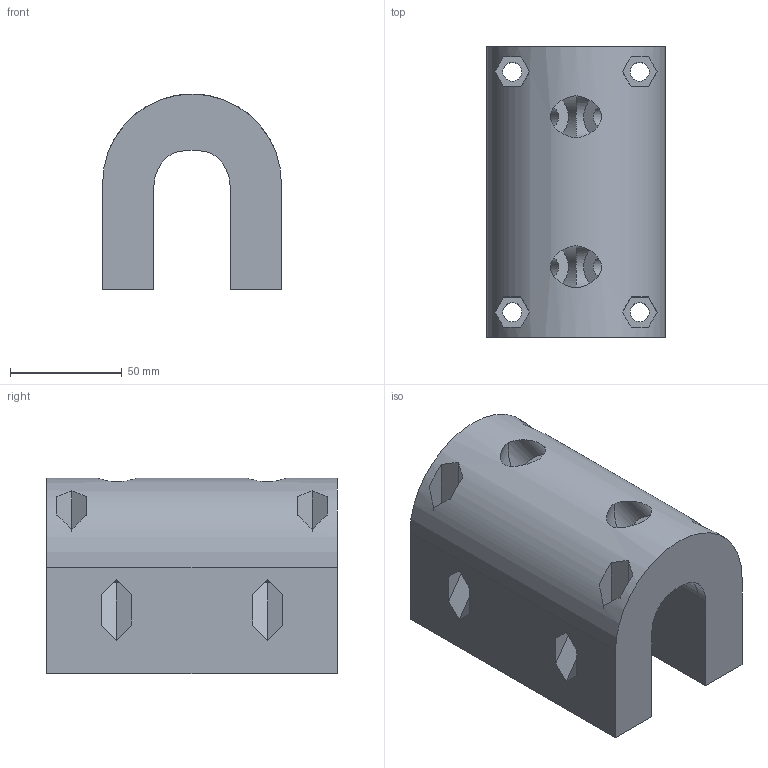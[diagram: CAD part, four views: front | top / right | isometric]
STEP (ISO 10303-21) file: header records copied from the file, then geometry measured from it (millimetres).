
FILE_DESCRIPTION(('FreeCAD Model'),'2;1');
FILE_NAME('Open CASCADE Shape Model','2026-10-06T17:51:36',(''),(''), 'Open CASCADE STEP processor 7.8','FreeCAD','Unknown');
FILE_SCHEMA(('AUTOMOTIVE_DESIGN { 1 0 10303 214 1 1 1 1 }'));
Length unit declared in the file: millimetre
Products named in the file (1): Pocket034
Bounding box: 80 x 130 x 87.62 mm (x, y, z)
Volume: 476313.6 mm3; surface area: 86693.9 mm2
Topology: 1 solids, 1 shells, 178 faces, 450 edges, 292 vertices
Faces by surface type: plane 116, cylinder 54, torus 8
Full cylindrical faces by diameter (mm): 6.6 x4, 8.2 x4, 8.5 x12, 11 x8, 19 x4
Entity records: 5687 total; most frequent: CARTESIAN_POINT 1193, DIRECTION 946, ORIENTED_EDGE 900, EDGE_CURVE 450, AXIS2_PLACEMENT_3D 329, VERTEX_POINT 292, LINE 288, VECTOR 288
